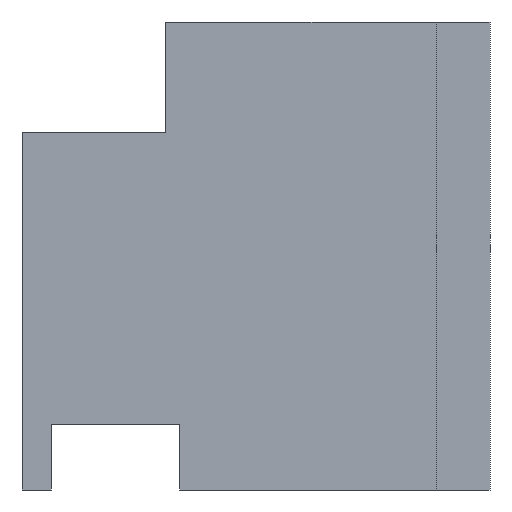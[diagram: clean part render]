
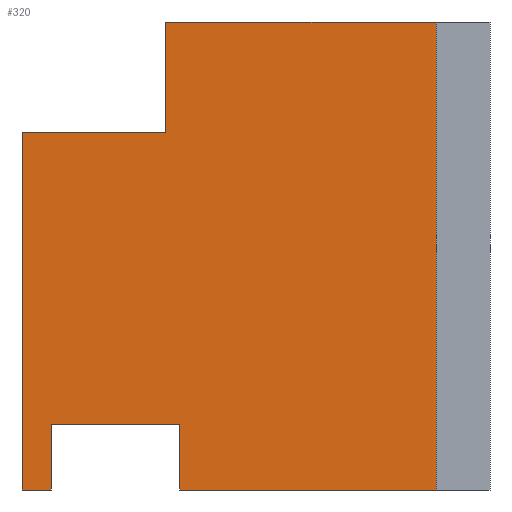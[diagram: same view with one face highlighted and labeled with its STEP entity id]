
A CAD part, front view. The second image highlights one B-rep face of the part: STEP entity #320.
In plain terms, the highlighted planar face has unit normal (0, -1, 0).
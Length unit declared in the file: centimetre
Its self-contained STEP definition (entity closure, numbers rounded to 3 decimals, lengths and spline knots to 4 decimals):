
#7 = LINE ( 'NONE', #329, #887 ) ;
#16 = EDGE_CURVE ( 'NONE', #693, #540, #36, .T. ) ;
#24 = VERTEX_POINT ( 'NONE', #62 ) ;
#25 = CARTESIAN_POINT ( 'NONE',  ( 884.9525, 0., 0. ) ) ;
#36 = LINE ( 'NONE', #525, #670 ) ;
#41 = VERTEX_POINT ( 'NONE', #876 ) ;
#43 = ORIENTED_EDGE ( 'NONE', *, *, #815, .F. ) ;
#46 = LINE ( 'NONE', #323, #580 ) ;
#62 = CARTESIAN_POINT ( 'NONE',  ( 62.6079, 0., 0. ) ) ;
#66 = CARTESIAN_POINT ( 'NONE',  ( 62.6079, 0., 139.3102 ) ) ;
#69 = VECTOR ( 'NONE', #148, 100. ) ;
#82 = VECTOR ( 'NONE', #709, 100. ) ;
#85 = VECTOR ( 'NONE', #448, 100. ) ;
#90 = DIRECTION ( 'NONE',  ( 1., 0., 0. ) ) ;
#93 = LINE ( 'NONE', #299, #85 ) ;
#96 = CARTESIAN_POINT ( 'NONE',  ( 884.9525, 0., 1000. ) ) ;
#105 = VERTEX_POINT ( 'NONE', #484 ) ;
#110 = AXIS2_PLACEMENT_3D ( 'NONE', #173, #387, #244 ) ;
#114 = ORIENTED_EDGE ( 'NONE', *, *, #630, .F. ) ;
#148 = DIRECTION ( 'NONE',  ( -1., 0., 0. ) ) ;
#158 = LINE ( 'NONE', #445, #82 ) ;
#159 = ORIENTED_EDGE ( 'NONE', *, *, #455, .F. ) ;
#162 = ORIENTED_EDGE ( 'NONE', *, *, #730, .T. ) ;
#170 = CARTESIAN_POINT ( 'NONE',  ( 336.9749, 0., 139.3102 ) ) ;
#173 = CARTESIAN_POINT ( 'NONE',  ( 0., 0., 1000. ) ) ;
#185 = DIRECTION ( 'NONE',  ( 1., 0., 0. ) ) ;
#189 = DIRECTION ( 'NONE',  ( 0., 0., -1. ) ) ;
#224 = VERTEX_POINT ( 'NONE', #554 ) ;
#244 = DIRECTION ( 'NONE',  ( 0., 0., 1. ) ) ;
#258 = CARTESIAN_POINT ( 'NONE',  ( 307.3009, 0., 764.8449 ) ) ;
#266 = DIRECTION ( 'NONE',  ( 0., 0., 1. ) ) ;
#293 = CARTESIAN_POINT ( 'NONE',  ( 307.3009, 0., 1000. ) ) ;
#299 = CARTESIAN_POINT ( 'NONE',  ( 884.9525, 0., 0. ) ) ;
#301 = VERTEX_POINT ( 'NONE', #583 ) ;
#310 = CARTESIAN_POINT ( 'NONE',  ( 0., 0., 0. ) ) ;
#315 = EDGE_CURVE ( 'NONE', #105, #734, #450, .T. ) ;
#316 = LINE ( 'NONE', #258, #654 ) ;
#317 = VECTOR ( 'NONE', #510, 100. ) ;
#320 = ADVANCED_FACE ( 'NONE', ( #707 ), #790, .F. ) ;
#323 = CARTESIAN_POINT ( 'NONE',  ( 0., 0., 0. ) ) ;
#329 = CARTESIAN_POINT ( 'NONE',  ( 0., 0., 1000. ) ) ;
#343 = LINE ( 'NONE', #524, #491 ) ;
#355 = VERTEX_POINT ( 'NONE', #170 ) ;
#374 = EDGE_CURVE ( 'NONE', #301, #24, #158, .T. ) ;
#387 = DIRECTION ( 'NONE',  ( 0., 1., 0. ) ) ;
#424 = LINE ( 'NONE', #66, #69 ) ;
#437 = EDGE_LOOP ( 'NONE', ( #585, #705, #456, #849, #817, #114, #43, #459, #162, #159 ) ) ;
#445 = CARTESIAN_POINT ( 'NONE',  ( 62.6079, 0., 0. ) ) ;
#448 = DIRECTION ( 'NONE',  ( 0., 0., 1. ) ) ;
#450 = LINE ( 'NONE', #310, #501 ) ;
#455 = EDGE_CURVE ( 'NONE', #540, #828, #343, .T. ) ;
#456 = ORIENTED_EDGE ( 'NONE', *, *, #845, .T. ) ;
#457 = CARTESIAN_POINT ( 'NONE',  ( 307.3009, 0., 764.8449 ) ) ;
#459 = ORIENTED_EDGE ( 'NONE', *, *, #315, .T. ) ;
#484 = CARTESIAN_POINT ( 'NONE',  ( 336.9749, 0., 0. ) ) ;
#491 = VECTOR ( 'NONE', #185, 100. ) ;
#501 = VECTOR ( 'NONE', #90, 100. ) ;
#503 = EDGE_CURVE ( 'NONE', #41, #24, #46, .T. ) ;
#507 = LINE ( 'NONE', #640, #317 ) ;
#510 = DIRECTION ( 'NONE',  ( 0., 0., 1. ) ) ;
#524 = CARTESIAN_POINT ( 'NONE',  ( 0., 0., 1000. ) ) ;
#525 = CARTESIAN_POINT ( 'NONE',  ( 307.3009, 0., 764.8449 ) ) ;
#540 = VERTEX_POINT ( 'NONE', #293 ) ;
#554 = CARTESIAN_POINT ( 'NONE',  ( 0., 0., 764.8449 ) ) ;
#580 = VECTOR ( 'NONE', #586, 100. ) ;
#583 = CARTESIAN_POINT ( 'NONE',  ( 62.6079, 0., 139.3102 ) ) ;
#585 = ORIENTED_EDGE ( 'NONE', *, *, #16, .F. ) ;
#586 = DIRECTION ( 'NONE',  ( 1., 0., 0. ) ) ;
#590 = DIRECTION ( 'NONE',  ( -1., 0., 0. ) ) ;
#630 = EDGE_CURVE ( 'NONE', #355, #301, #424, .T. ) ;
#640 = CARTESIAN_POINT ( 'NONE',  ( 336.9749, 0., 0. ) ) ;
#654 = VECTOR ( 'NONE', #590, 100. ) ;
#670 = VECTOR ( 'NONE', #266, 100. ) ;
#693 = VERTEX_POINT ( 'NONE', #457 ) ;
#705 = ORIENTED_EDGE ( 'NONE', *, *, #850, .T. ) ;
#707 = FACE_OUTER_BOUND ( 'NONE', #437, .T. ) ;
#709 = DIRECTION ( 'NONE',  ( 0., 0., -1. ) ) ;
#730 = EDGE_CURVE ( 'NONE', #734, #828, #93, .T. ) ;
#734 = VERTEX_POINT ( 'NONE', #25 ) ;
#790 = PLANE ( 'NONE',  #110 ) ;
#815 = EDGE_CURVE ( 'NONE', #105, #355, #507, .T. ) ;
#817 = ORIENTED_EDGE ( 'NONE', *, *, #374, .F. ) ;
#828 = VERTEX_POINT ( 'NONE', #96 ) ;
#845 = EDGE_CURVE ( 'NONE', #224, #41, #7, .T. ) ;
#849 = ORIENTED_EDGE ( 'NONE', *, *, #503, .T. ) ;
#850 = EDGE_CURVE ( 'NONE', #693, #224, #316, .T. ) ;
#876 = CARTESIAN_POINT ( 'NONE',  ( 0., 0., 0. ) ) ;
#887 = VECTOR ( 'NONE', #189, 100. ) ;
